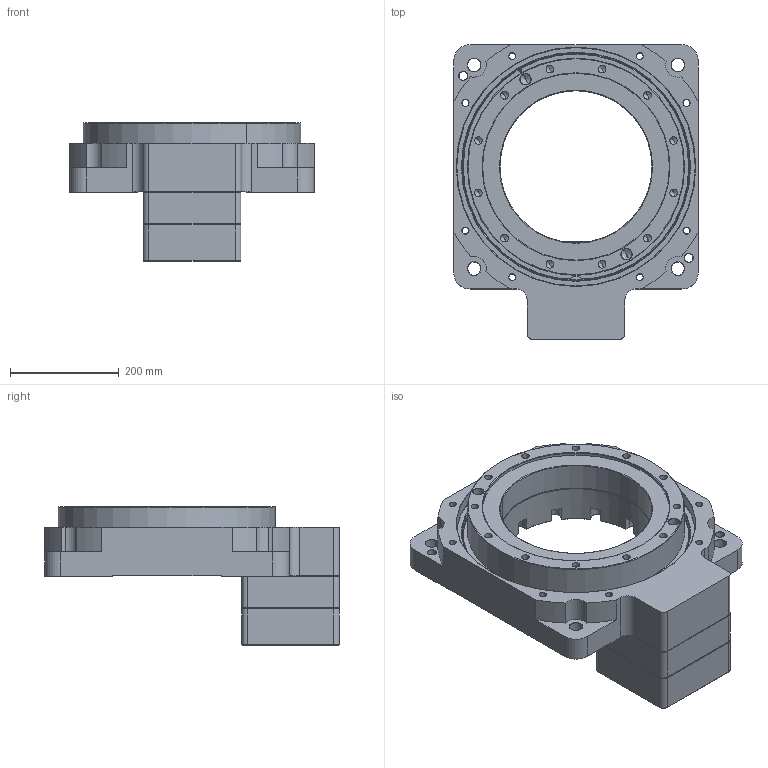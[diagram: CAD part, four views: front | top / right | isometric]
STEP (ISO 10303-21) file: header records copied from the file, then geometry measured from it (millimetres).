
FILE_DESCRIPTION (( 'STEP AP203' ), '1' );
FILE_NAME ('×°ÅäÌå1.STEP', '2022-03-22T07:18:16', ( '' ), ( '' ), 'SwSTEP 2.0', 'SolidWorks 2020', '' );
FILE_SCHEMA (( 'CONFIG_CONTROL_DESIGN' ));
Length unit declared in the file: millimetre
Products named in the file (8): 8; 6312; 蚾饜极1; 400Y1(1).step; 02; 01; 06; 07
Assembly tree (8 placements, depth 2):
  蚾饜极1
    01
    400Y1(1).step
    02
    8
    6312  x2
    06
    07
Bounding box: 450 x 542.6 x 255 mm (x, y, z)
Volume: 17018269.5 mm3; surface area: 1686002 mm2
Topology: 26 solids, 26 shells, 1162 faces, 2855 edges, 1660 vertices
Faces by surface type: cone 456, cylinder 384, plane 206, torus 75, sphere 32, bspline 9
Entity records: 33126 total; most frequent: CARTESIAN_POINT 6126, DIRECTION 5940, ORIENTED_EDGE 5114, EDGE_CURVE 2557, AXIS2_PLACEMENT_3D 2398, VERTEX_POINT 1562, EDGE_LOOP 1317, CIRCLE 1280
